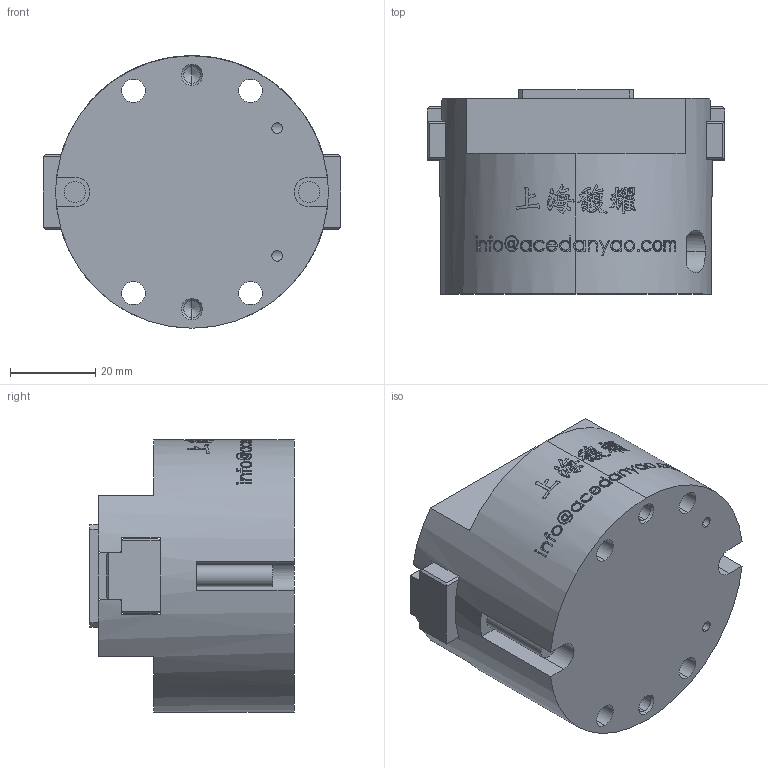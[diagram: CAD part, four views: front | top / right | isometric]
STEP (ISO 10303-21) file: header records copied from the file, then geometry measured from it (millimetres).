
FILE_DESCRIPTION (( 'STEP AP203' ), '1' );
FILE_NAME ('OPM-064-C2-原始檔-組合-W106.04.18.STEP', '2017-04-18T05:31:44', ( 'DanyaoCAD' ), ( '' ), 'SwSTEP 2.0', 'SolidWorks 2016', '' );
FILE_SCHEMA (( 'CONFIG_CONTROL_DESIGN' ));
Length unit declared in the file: millimetre
Products named in the file (3): Corpo; Griffa; OPM-064-C2-原始檔-組合-W106.04.18
Assembly tree (3 placements, depth 2):
  OPM-064-C2-原始檔-組合-W106.04.18
    Griffa  x2
    Corpo
Bounding box: 70 x 48 x 64 mm (x, y, z)
Volume: 128321.7 mm3; surface area: 27355.1 mm2
Topology: 3 solids, 3 shells, 959 faces, 2666 edges, 1758 vertices
Faces by surface type: bspline 665, plane 185, cylinder 89, cone 20
Entity records: 86130 total; most frequent: CARTESIAN_POINT 68217, ORIENTED_EDGE 5092, EDGE_CURVE 2546, B_SPLINE_CURVE_WITH_KNOTS 2035, VERTEX_POINT 1690, DIRECTION 1172, EDGE_LOOP 982, ADVANCED_FACE 914
